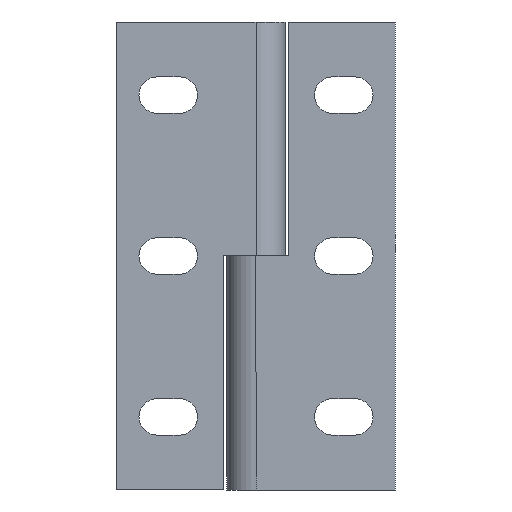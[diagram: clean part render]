
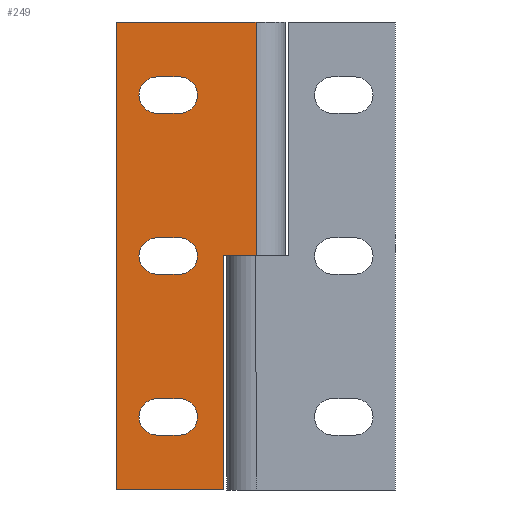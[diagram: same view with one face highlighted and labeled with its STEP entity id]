
A CAD part, front view. The second image highlights one B-rep face of the part: STEP entity #249.
In plain terms, the highlighted planar face has unit normal (0, -1, 0).
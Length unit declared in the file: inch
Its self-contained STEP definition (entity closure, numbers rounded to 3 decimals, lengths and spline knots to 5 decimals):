
#249=ADVANCED_FACE('',(#503,#504,#505,#506),#507,.T.);
#503=FACE_BOUND('',#766,.T.);
#504=FACE_BOUND('',#767,.T.);
#505=FACE_BOUND('',#768,.T.);
#506=FACE_OUTER_BOUND('',#769,.T.);
#507=PLANE('',#770);
#766=EDGE_LOOP('',(#1406,#1407,#1408,#1409,#1410,#1411));
#767=EDGE_LOOP('',(#1412,#1413,#1414,#1415,#1416,#1417));
#768=EDGE_LOOP('',(#1418,#1419,#1420,#1421,#1422,#1423));
#769=EDGE_LOOP('',(#1424,#1425,#1426,#1427,#1428,#1429));
#770=AXIS2_PLACEMENT_3D('',#1430,#1431,#1432);
#1406=ORIENTED_EDGE('',*,*,#1602,.T.);
#1407=ORIENTED_EDGE('',*,*,#1683,.T.);
#1408=ORIENTED_EDGE('',*,*,#1744,.T.);
#1409=ORIENTED_EDGE('',*,*,#1660,.T.);
#1410=ORIENTED_EDGE('',*,*,#1785,.T.);
#1411=ORIENTED_EDGE('',*,*,#1565,.T.);
#1412=ORIENTED_EDGE('',*,*,#1786,.T.);
#1413=ORIENTED_EDGE('',*,*,#1599,.T.);
#1414=ORIENTED_EDGE('',*,*,#1666,.T.);
#1415=ORIENTED_EDGE('',*,*,#1783,.T.);
#1416=ORIENTED_EDGE('',*,*,#1697,.T.);
#1417=ORIENTED_EDGE('',*,*,#1645,.T.);
#1418=ORIENTED_EDGE('',*,*,#1787,.T.);
#1419=ORIENTED_EDGE('',*,*,#1674,.T.);
#1420=ORIENTED_EDGE('',*,*,#1788,.T.);
#1421=ORIENTED_EDGE('',*,*,#1663,.T.);
#1422=ORIENTED_EDGE('',*,*,#1627,.T.);
#1423=ORIENTED_EDGE('',*,*,#1669,.T.);
#1424=ORIENTED_EDGE('',*,*,#1772,.T.);
#1425=ORIENTED_EDGE('',*,*,#1606,.T.);
#1426=ORIENTED_EDGE('',*,*,#1729,.T.);
#1427=ORIENTED_EDGE('',*,*,#1694,.F.);
#1428=ORIENTED_EDGE('',*,*,#1650,.T.);
#1429=ORIENTED_EDGE('',*,*,#1778,.T.);
#1430=CARTESIAN_POINT('',(0.0,-0.125,-0.0315));
#1431=DIRECTION('',(0.,-1.0,0.0));
#1432=DIRECTION('',(1.0,0.,0.0));
#1565=EDGE_CURVE('',#1882,#1883,#1884,.T.);
#1599=EDGE_CURVE('',#1942,#1944,#1946,.T.);
#1602=EDGE_CURVE('',#1883,#1948,#1950,.T.);
#1606=EDGE_CURVE('',#1957,#1955,#1958,.T.);
#1627=EDGE_CURVE('',#1985,#1987,#1989,.T.);
#1645=EDGE_CURVE('',#2015,#2016,#2017,.T.);
#1650=EDGE_CURVE('',#2023,#2021,#2024,.T.);
#1660=EDGE_CURVE('',#2037,#2035,#2038,.T.);
#1663=EDGE_CURVE('',#2041,#1985,#2042,.T.);
#1666=EDGE_CURVE('',#1944,#2045,#2046,.T.);
#1669=EDGE_CURVE('',#1987,#2049,#2050,.T.);
#1674=EDGE_CURVE('',#2053,#2055,#2057,.T.);
#1683=EDGE_CURVE('',#1948,#2065,#2067,.T.);
#1694=EDGE_CURVE('',#2023,#2081,#2083,.T.);
#1697=EDGE_CURVE('',#2085,#2015,#2087,.T.);
#1729=EDGE_CURVE('',#1955,#2081,#2132,.T.);
#1744=EDGE_CURVE('',#2065,#2037,#2150,.T.);
#1772=EDGE_CURVE('',#2186,#1957,#2187,.T.);
#1778=EDGE_CURVE('',#2021,#2186,#2193,.T.);
#1783=EDGE_CURVE('',#2045,#2085,#2198,.T.);
#1785=EDGE_CURVE('',#2035,#1882,#2200,.T.);
#1786=EDGE_CURVE('',#2016,#1942,#2201,.T.);
#1787=EDGE_CURVE('',#2049,#2053,#2202,.T.);
#1788=EDGE_CURVE('',#2055,#2041,#2203,.T.);
#1882=VERTEX_POINT('',#2319);
#1883=VERTEX_POINT('',#2320);
#1884=LINE('',#2321,#2322);
#1942=VERTEX_POINT('',#2394);
#1944=VERTEX_POINT('',#2397);
#1946=CIRCLE('',#2400,0.078);
#1948=VERTEX_POINT('',#2402);
#1950=CIRCLE('',#2405,0.078);
#1955=VERTEX_POINT('',#2411);
#1957=VERTEX_POINT('',#2413);
#1958=LINE('',#2414,#2415);
#1985=VERTEX_POINT('',#2448);
#1987=VERTEX_POINT('',#2451);
#1989=CIRCLE('',#2454,0.078);
#2015=VERTEX_POINT('',#2490);
#2016=VERTEX_POINT('',#2491);
#2017=LINE('',#2492,#2493);
#2021=VERTEX_POINT('',#2499);
#2023=VERTEX_POINT('',#2502);
#2024=LINE('',#2503,#2504);
#2035=VERTEX_POINT('',#2519);
#2037=VERTEX_POINT('',#2522);
#2038=CIRCLE('',#2523,0.078);
#2041=VERTEX_POINT('',#2527);
#2042=CIRCLE('',#2528,0.078);
#2045=VERTEX_POINT('',#2532);
#2046=LINE('',#2533,#2534);
#2049=VERTEX_POINT('',#2538);
#2050=LINE('',#2539,#2540);
#2053=VERTEX_POINT('',#2544);
#2055=VERTEX_POINT('',#2547);
#2057=CIRCLE('',#2550,0.078);
#2065=VERTEX_POINT('',#2558);
#2067=CIRCLE('',#2561,0.078);
#2081=VERTEX_POINT('',#2578);
#2083=LINE('',#2581,#2582);
#2085=VERTEX_POINT('',#2584);
#2087=CIRCLE('',#2587,0.078);
#2132=LINE('',#2642,#2643);
#2150=LINE('',#2666,#2667);
#2186=VERTEX_POINT('',#2712);
#2187=LINE('',#2713,#2714);
#2193=LINE('',#2721,#2722);
#2198=CIRCLE('',#2728,0.078);
#2200=CIRCLE('',#2730,0.078);
#2201=CIRCLE('',#2731,0.078);
#2202=CIRCLE('',#2732,0.078);
#2203=LINE('',#2733,#2734);
#2319=CARTESIAN_POINT('',(-0.422,-0.125,1.0465));
#2320=CARTESIAN_POINT('',(-0.328,-0.125,1.0465));
#2321=CARTESIAN_POINT('',(-0.211,-0.125,1.0465));
#2322=VECTOR('',#2820,0.3937);
#2394=CARTESIAN_POINT('',(-0.25,-0.125,0.281));
#2397=CARTESIAN_POINT('',(-0.328,-0.125,0.203));
#2400=AXIS2_PLACEMENT_3D('',#2879,#2880,#2881);
#2402=CARTESIAN_POINT('',(-0.25,-0.125,0.9685));
#2405=AXIS2_PLACEMENT_3D('',#2883,#2884,#2885);
#2411=CARTESIAN_POINT('',(0.0,-0.125,1.9685));
#2413=CARTESIAN_POINT('',(0.0,-0.125,0.9685));
#2414=CARTESIAN_POINT('',(0.0,-0.125,-0.0315));
#2415=VECTOR('',#2890,0.3937);
#2448=CARTESIAN_POINT('',(-0.5,-0.125,1.656));
#2451=CARTESIAN_POINT('',(-0.422,-0.125,1.734));
#2454=AXIS2_PLACEMENT_3D('',#2920,#2921,#2922);
#2490=CARTESIAN_POINT('',(-0.422,-0.125,0.359));
#2491=CARTESIAN_POINT('',(-0.328,-0.125,0.359));
#2492=CARTESIAN_POINT('',(-0.211,-0.125,0.359));
#2493=VECTOR('',#2939,0.3937);
#2499=CARTESIAN_POINT('',(-0.13752,-0.125,-0.0315));
#2502=CARTESIAN_POINT('',(-0.595,-0.125,-0.0315));
#2503=CARTESIAN_POINT('',(-0.595,-0.125,-0.0315));
#2504=VECTOR('',#2943,0.3937);
#2519=CARTESIAN_POINT('',(-0.5,-0.125,0.9685));
#2522=CARTESIAN_POINT('',(-0.422,-0.125,0.8905));
#2523=AXIS2_PLACEMENT_3D('',#2952,#2953,#2954);
#2527=CARTESIAN_POINT('',(-0.422,-0.125,1.578));
#2528=AXIS2_PLACEMENT_3D('',#2956,#2957,#2958);
#2532=CARTESIAN_POINT('',(-0.422,-0.125,0.203));
#2533=CARTESIAN_POINT('',(-0.164,-0.125,0.203));
#2534=VECTOR('',#2960,0.3937);
#2538=CARTESIAN_POINT('',(-0.328,-0.125,1.734));
#2539=CARTESIAN_POINT('',(-0.211,-0.125,1.734));
#2540=VECTOR('',#2962,0.3937);
#2544=CARTESIAN_POINT('',(-0.25,-0.125,1.656));
#2547=CARTESIAN_POINT('',(-0.328,-0.125,1.578));
#2550=AXIS2_PLACEMENT_3D('',#2966,#2967,#2968);
#2558=CARTESIAN_POINT('',(-0.328,-0.125,0.8905));
#2561=AXIS2_PLACEMENT_3D('',#2982,#2983,#2984);
#2578=CARTESIAN_POINT('',(-0.595,-0.125,1.9685));
#2581=CARTESIAN_POINT('',(-0.595,-0.125,-0.0315));
#2582=VECTOR('',#2998,0.3937);
#2584=CARTESIAN_POINT('',(-0.5,-0.125,0.281));
#2587=AXIS2_PLACEMENT_3D('',#3000,#3001,#3002);
#2642=CARTESIAN_POINT('',(-0.595,-0.125,1.9685));
#2643=VECTOR('',#3049,0.3937);
#2666=CARTESIAN_POINT('',(-0.164,-0.125,0.8905));
#2667=VECTOR('',#3064,0.3937);
#2712=CARTESIAN_POINT('',(-0.13752,-0.125,0.9685));
#2713=CARTESIAN_POINT('',(0.02986,-0.125,0.9685));
#2714=VECTOR('',#3107,0.3937);
#2721=CARTESIAN_POINT('',(-0.13752,-0.125,-0.0315));
#2722=VECTOR('',#3109,0.3937);
#2728=AXIS2_PLACEMENT_3D('',#3111,#3112,#3113);
#2730=AXIS2_PLACEMENT_3D('',#3114,#3115,#3116);
#2731=AXIS2_PLACEMENT_3D('',#3117,#3118,#3119);
#2732=AXIS2_PLACEMENT_3D('',#3120,#3121,#3122);
#2733=CARTESIAN_POINT('',(-0.164,-0.125,1.578));
#2734=VECTOR('',#3123,0.3937);
#2820=DIRECTION('',(1.0,0.,0.));
#2879=CARTESIAN_POINT('',(-0.328,-0.125,0.281));
#2880=DIRECTION('',(0.,1.0,0.0));
#2881=DIRECTION('',(1.0,0.,0.));
#2883=CARTESIAN_POINT('',(-0.328,-0.125,0.9685));
#2884=DIRECTION('',(0.,1.0,0.0));
#2885=DIRECTION('',(1.0,0.,0.));
#2890=DIRECTION('',(0.0,0.0,1.0));
#2920=CARTESIAN_POINT('',(-0.422,-0.125,1.656));
#2921=DIRECTION('',(0.,1.0,0.0));
#2922=DIRECTION('',(1.0,0.,0.));
#2939=DIRECTION('',(1.0,0.,0.));
#2943=DIRECTION('',(1.0,0.,0.0));
#2952=CARTESIAN_POINT('',(-0.422,-0.125,0.9685));
#2953=DIRECTION('',(0.,1.0,0.0));
#2954=DIRECTION('',(1.0,0.,0.));
#2956=CARTESIAN_POINT('',(-0.422,-0.125,1.656));
#2957=DIRECTION('',(0.,1.0,0.0));
#2958=DIRECTION('',(1.0,0.,0.));
#2960=DIRECTION('',(-1.0,0.,0.));
#2962=DIRECTION('',(1.0,0.,0.));
#2966=CARTESIAN_POINT('',(-0.328,-0.125,1.656));
#2967=DIRECTION('',(0.,1.0,0.0));
#2968=DIRECTION('',(1.0,0.,0.));
#2982=CARTESIAN_POINT('',(-0.328,-0.125,0.9685));
#2983=DIRECTION('',(0.,1.0,0.0));
#2984=DIRECTION('',(1.0,0.,0.));
#2998=DIRECTION('',(0.0,0.0,1.0));
#3000=CARTESIAN_POINT('',(-0.422,-0.125,0.281));
#3001=DIRECTION('',(0.,1.0,0.0));
#3002=DIRECTION('',(1.0,0.,0.));
#3049=DIRECTION('',(-1.0,0.,0.0));
#3064=DIRECTION('',(-1.0,0.,0.));
#3107=DIRECTION('',(1.0,0.,0.));
#3109=DIRECTION('',(0.0,0.0,1.0));
#3111=CARTESIAN_POINT('',(-0.422,-0.125,0.281));
#3112=DIRECTION('',(0.,1.0,0.0));
#3113=DIRECTION('',(1.0,0.,0.));
#3114=CARTESIAN_POINT('',(-0.422,-0.125,0.9685));
#3115=DIRECTION('',(0.,1.0,0.0));
#3116=DIRECTION('',(1.0,0.,0.));
#3117=CARTESIAN_POINT('',(-0.328,-0.125,0.281));
#3118=DIRECTION('',(0.,1.0,0.0));
#3119=DIRECTION('',(1.0,0.,0.));
#3120=CARTESIAN_POINT('',(-0.328,-0.125,1.656));
#3121=DIRECTION('',(0.,1.0,0.0));
#3122=DIRECTION('',(1.0,0.,0.));
#3123=DIRECTION('',(-1.0,0.,0.));
